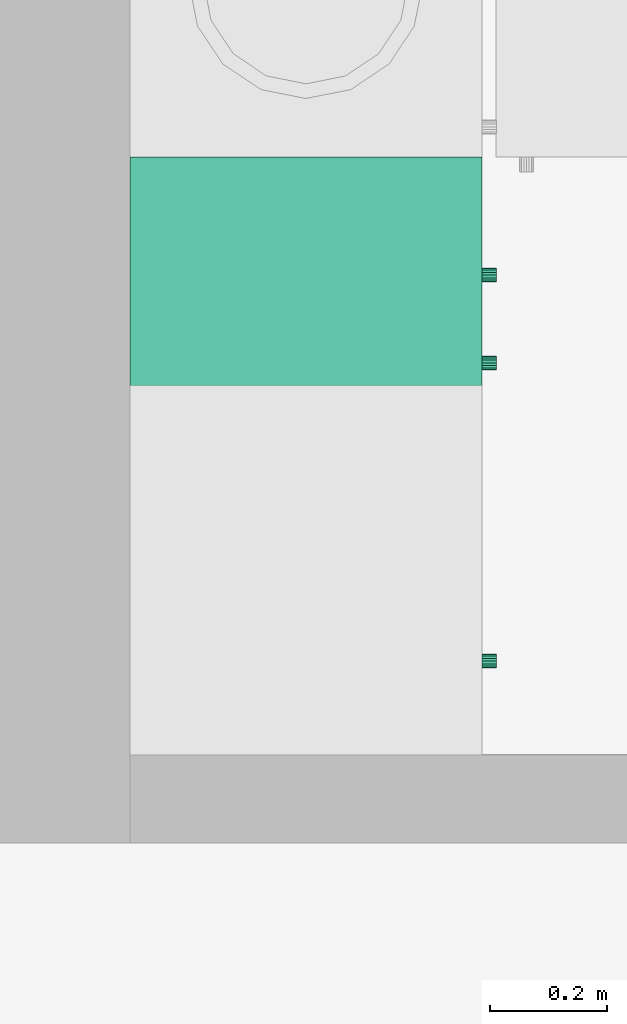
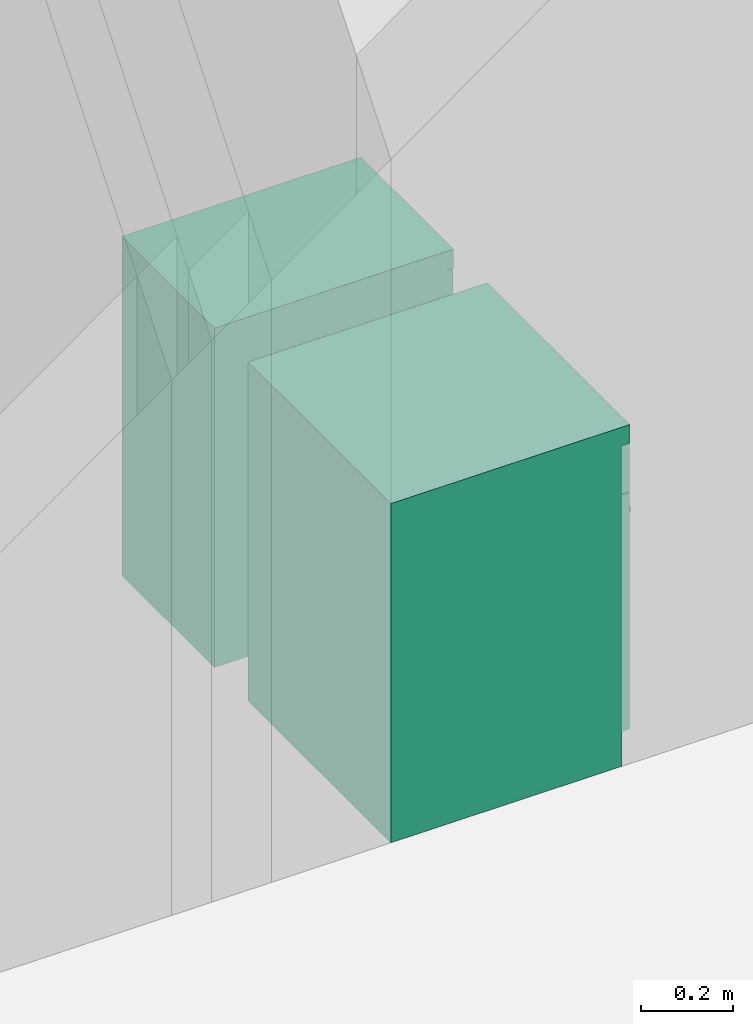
# One storey, part 46 of 165: 2 flow terminals.
"""IFC2X3 building model written with IfcOpenShell, lengths in millimetres."""

from ifc_helpers import new_model, entity, si_unit, converted_unit, money_unit, direction, frame, origin_with_axes, place, context, subcontext, project, spatial, faceted_brep, source, transform, mapped, material, material_list, type_object, element, save


model = new_model("IFC2X3")

# Units and contexts
model_context = context("Model", 3, precision=1e-05, world=origin_with_axes(), true_north=direction((0.0, 1.0)))
body_context = subcontext(model_context, "Body", "Model", "MODEL_VIEW")
ifc_project = project(units=[si_unit("LENGTHUNIT", "METRE", prefix="MILLI"), si_unit("AREAUNIT", "SQUARE_METRE"), si_unit("VOLUMEUNIT", "CUBIC_METRE"), converted_unit("PLANEANGLEUNIT", "DEGREE", entity("IfcPlaneAngleMeasure", 0.0174532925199), si_unit("PLANEANGLEUNIT", "RADIAN"), dimensions=[0, 0, 0, 0, 0, 0, 0]), si_unit("SOLIDANGLEUNIT", "STERADIAN"), money_unit("USD"), converted_unit("TIMEUNIT", "Year", entity("IfcTimeMeasure", 31556926.0), si_unit("TIMEUNIT", "SECOND"), dimensions=[0, 0, 0, 0, 0, 0, 0]), si_unit("MASSUNIT", "GRAM"), si_unit("THERMODYNAMICTEMPERATUREUNIT", "DEGREE_CELSIUS"), si_unit("LUMINOUSINTENSITYUNIT", "LUMEN")], contexts=[model_context])

# Site, building, storey
site_placement = place(None, origin_with_axes())
site = spatial("IfcSite", under=ifc_project, at=site_placement, Name="Site", CompositionType="ELEMENT")
building_placement = place(site_placement, origin_with_axes())
building = spatial("IfcBuilding", under=site, at=building_placement, Name="Building", CompositionType="ELEMENT")
storey_placement = place(building_placement, frame((0.0, 0.0, 6300.0), z_axis=(0.0, 0.0, 1.0), x_axis=(1.0, 0.0, 0.0)))
storey = spatial("IfcBuildingStorey", under=building, at=storey_placement, Name="4KORRUS", CompositionType="ELEMENT", Elevation=6300.0)

# Flow terminals
ifc_material = material(Name="Background")
ifc_material_list = material_list([ifc_material])
sanitary_terminal_type = type_object("IfcSanitaryTerminalType", Name="Cabinet Base Single Door 19", PredefinedType="SINK")
shared_shape_1 = source(origin_with_axes(), body_context, "Body", "Brep", [
    faceted_brep([(-20.0, 20.0, 710.0), (-20.0, 20.0, 730.0), (-382.248, 20.0, 730.0), (-382.248, 20.0, 710.0), (-20.0, 580.0, 710.0), (-20.0, 580.0, 730.0), (-382.248, 580.0, 730.0), (-382.248, 580.0, 710.0)], [[[0, 1, 2, 3]], [[4, 5, 1, 0]], [[1, 5, 6, 2]], [[3, 2, 6, 7]], [[0, 3, 7, 4]], [[7, 6, 5, 4]]]),
    faceted_brep([(0.0, 20.0, 0.0), (0.0, 20.0, 90.0), (-402.248, 20.0, 90.0), (-402.248, 20.0, 0.0), (0.0, 600.0, 0.0), (0.0, 600.0, 90.0), (-402.248, 600.0, 90.0), (-402.248, 600.0, 0.0)], [[[0, 1, 2, 3]], [[4, 5, 1, 0]], [[1, 5, 6, 2]], [[3, 2, 6, 7]], [[0, 3, 7, 4]], [[7, 6, 5, 4]]]),
    faceted_brep([(0.0, 20.0, 830.0), (0.0, 20.0, 850.0), (-20.0, 20.0, 850.0), (-20.0, 20.0, 830.0), (0.0, 600.0, 830.0), (0.0, 600.0, 850.0), (-20.0, 600.0, 850.0), (-382.248, 600.0, 850.0), (-402.248, 600.0, 850.0), (-402.248, 20.0, 850.0), (-382.248, 20.0, 850.0), (-382.248, 20.0, 830.0), (-402.248, 20.0, 830.0), (-402.248, 600.0, 830.0), (-382.248, 600.0, 830.0), (-20.0, 600.0, 830.0)], [[[0, 1, 2, 3]], [[4, 5, 1, 0]], [[1, 5, 6, 7, 8, 9, 10, 2]], [[3, 2, 10, 11]], [[0, 3, 11, 12, 13, 14, 15, 4]], [[15, 6, 5, 4]], [[14, 7, 6, 15]], [[13, 8, 7, 14]], [[12, 9, 8, 13]], [[11, 10, 9, 12]]]),
    faceted_brep([(0.0, 20.0, 90.0), (0.0, 20.0, 110.0), (-20.0, 20.0, 110.0), (-20.0, 20.0, 90.0), (0.0, 600.0, 90.0), (0.0, 600.0, 110.0), (-20.0, 600.0, 110.0), (-382.248, 600.0, 110.0), (-402.248, 600.0, 110.0), (-402.248, 20.0, 110.0), (-382.248, 20.0, 110.0), (-382.248, 20.0, 90.0), (-402.248, 20.0, 90.0), (-402.248, 600.0, 90.0), (-382.248, 600.0, 90.0), (-20.0, 600.0, 90.0)], [[[0, 1, 2, 3]], [[4, 5, 1, 0]], [[1, 5, 6, 7, 8, 9, 10, 2]], [[3, 2, 10, 11]], [[0, 3, 11, 12, 13, 14, 15, 4]], [[15, 6, 5, 4]], [[14, 7, 6, 15]], [[13, 8, 7, 14]], [[12, 9, 8, 13]], [[11, 10, 9, 12]]]),
    faceted_brep([(0.0, 20.0, 110.0), (0.0, 20.0, 830.0), (-20.0, 20.0, 830.0), (-20.0, 20.0, 110.0), (0.0, 600.0, 110.0), (0.0, 600.0, 830.0), (-402.248, 600.0, 830.0), (-402.248, 20.0, 830.0), (-382.248, 20.0, 830.0), (-382.248, 580.0, 830.0), (-20.0, 580.0, 830.0), (-20.0, 580.0, 110.0), (-382.248, 580.0, 110.0), (-382.248, 20.0, 110.0), (-402.248, 20.0, 110.0), (-402.248, 600.0, 110.0)], [[[0, 1, 2, 3]], [[4, 5, 1, 0]], [[1, 5, 6, 7, 8, 9, 10, 2]], [[3, 2, 10, 11]], [[0, 3, 11, 12, 13, 14, 15, 4]], [[15, 6, 5, 4]], [[14, 7, 6, 15]], [[13, 8, 7, 14]], [[12, 9, 8, 13]], [[11, 10, 9, 12]]]),
    faceted_brep([(-382.248, 20.0, 385.0), (-382.248, 20.0, 405.0), (-382.248, 580.0, 405.0), (-382.248, 580.0, 385.0), (-20.0, 20.0, 385.0), (-20.0, 20.0, 405.0), (-20.0, 580.0, 405.0), (-20.0, 580.0, 385.0)], [[[0, 1, 2, 3]], [[4, 5, 1, 0]], [[1, 5, 6, 2]], [[3, 2, 6, 7]], [[0, 3, 7, 4]], [[7, 6, 5, 4]]]),
    faceted_brep([(0.0, 0.0, 850.0), (0.0, 0.0, 900.0), (-402.248, 0.0, 900.0), (-402.248, 0.0, 850.0), (0.0, 600.0, 850.0), (0.0, 600.0, 900.0), (-402.248, 600.0, 900.0), (-402.248, 600.0, 850.0)], [[[0, 1, 2, 3]], [[4, 5, 1, 0]], [[1, 5, 6, 2]], [[3, 2, 6, 7]], [[0, 3, 7, 4]], [[7, 6, 5, 4]]]),
    faceted_brep([(-1.5, 20.0, 721.5), (-1.5, 0.0, 721.5), (-400.748, 0.0, 721.5), (-400.748, 20.0, 721.5), (-1.5, 20.0, 848.5), (-1.5, 0.0, 848.5), (-400.748, 0.0, 848.5), (-400.748, 20.0, 848.5)], [[[0, 1, 2, 3]], [[4, 5, 1, 0]], [[1, 5, 6, 2]], [[3, 2, 6, 7]], [[0, 3, 7, 4]], [[7, 6, 5, 4]]]),
    faceted_brep([(-196.532, 0.0, 773.913), (-201.124, 0.0, 773.0), (-205.716, 0.0, 773.913), (-209.609, 0.0, 776.515), (-212.211, 0.0, 780.408), (-213.124, 0.0, 785.0), (-212.211, 0.0, 789.592), (-209.609, 0.0, 793.485), (-205.716, 0.0, 796.087), (-201.124, 0.0, 797.0), (-196.532, 0.0, 796.087), (-192.639, 0.0, 793.485), (-190.038, 0.0, 789.592), (-189.124, 0.0, 785.0), (-190.038, 0.0, 780.408), (-192.639, 0.0, 776.515), (-196.532, -25.0, 773.913), (-201.124, -25.0, 773.0), (-205.716, -25.0, 773.913), (-209.609, -25.0, 776.515), (-212.211, -25.0, 780.408), (-213.124, -25.0, 785.0), (-212.211, -25.0, 789.592), (-209.609, -25.0, 793.485), (-205.716, -25.0, 796.087), (-201.124, -25.0, 797.0), (-196.532, -25.0, 796.087), (-192.639, -25.0, 793.485), (-190.038, -25.0, 789.592), (-189.124, -25.0, 785.0), (-190.038, -25.0, 780.408), (-192.639, -25.0, 776.515)], [[[0, 1, 2, 3, 4, 5, 6, 7, 8, 9, 10, 11, 12, 13, 14, 15]], [[0, 16, 17, 1]], [[1, 17, 18, 2]], [[2, 18, 19, 3]], [[3, 19, 20, 4]], [[4, 20, 21, 5]], [[5, 21, 22, 6]], [[6, 22, 23, 7]], [[7, 23, 24, 8]], [[8, 24, 25, 9]], [[9, 25, 26, 10]], [[10, 26, 27, 11]], [[11, 27, 28, 12]], [[12, 28, 29, 13]], [[13, 29, 30, 14]], [[14, 30, 31, 15]], [[15, 31, 16, 0]], [[16, 31, 30, 29, 28, 27, 26, 25, 24, 23, 22, 21, 20, 19, 18, 17]]]),
    faceted_brep([(-1.5, 20.0, 91.5), (-1.5, 0.0, 91.5), (-400.748, 0.0, 91.5), (-400.748, 20.0, 91.5), (-1.5, 20.0, 718.5), (-1.5, 0.0, 718.5), (-400.748, 0.0, 718.5), (-400.748, 20.0, 718.5)], [[[0, 1, 2, 3]], [[4, 5, 1, 0]], [[1, 5, 6, 2]], [[3, 2, 6, 7]], [[0, 3, 7, 4]], [[7, 6, 5, 4]]]),
    faceted_brep([(-361.835, 0.0, 636.908), (-362.748, 0.0, 641.5), (-361.835, 0.0, 646.092), (-359.234, 0.0, 649.985), (-355.341, 0.0, 652.587), (-350.748, 0.0, 653.5), (-346.156, 0.0, 652.587), (-342.263, 0.0, 649.985), (-339.662, 0.0, 646.092), (-338.748, 0.0, 641.5), (-339.662, 0.0, 636.908), (-342.263, 0.0, 633.015), (-346.156, 0.0, 630.413), (-350.748, 0.0, 629.5), (-355.341, 0.0, 630.413), (-359.234, 0.0, 633.015), (-361.835, -25.0, 636.908), (-362.748, -25.0, 641.5), (-361.835, -25.0, 646.092), (-359.234, -25.0, 649.985), (-355.341, -25.0, 652.587), (-350.748, -25.0, 653.5), (-346.156, -25.0, 652.587), (-342.263, -25.0, 649.985), (-339.662, -25.0, 646.092), (-338.748, -25.0, 641.5), (-339.662, -25.0, 636.908), (-342.263, -25.0, 633.015), (-346.156, -25.0, 630.413), (-350.748, -25.0, 629.5), (-355.341, -25.0, 630.413), (-359.234, -25.0, 633.015)], [[[0, 1, 2, 3, 4, 5, 6, 7, 8, 9, 10, 11, 12, 13, 14, 15]], [[0, 16, 17, 1]], [[1, 17, 18, 2]], [[2, 18, 19, 3]], [[3, 19, 20, 4]], [[4, 20, 21, 5]], [[5, 21, 22, 6]], [[6, 22, 23, 7]], [[7, 23, 24, 8]], [[8, 24, 25, 9]], [[9, 25, 26, 10]], [[10, 26, 27, 11]], [[11, 27, 28, 12]], [[12, 28, 29, 13]], [[13, 29, 30, 14]], [[14, 30, 31, 15]], [[15, 31, 16, 0]], [[16, 31, 30, 29, 28, 27, 26, 25, 24, 23, 22, 21, 20, 19, 18, 17]]]),
])
flow_terminal_1_placement = place(storey_placement, frame((6609.70329669, -9967.37850445, 0.0), z_axis=(0.0, 0.0, 1.0), x_axis=(0.0, 1.0, 0.0)))
element("IfcFlowTerminal", 1, at=flow_terminal_1_placement, inside=storey, type_object=sanitary_terminal_type, material=ifc_material_list, Name="FU - 007", context=body_context, shape_type="MappedRepresentation", body=[
    mapped(shared_shape_1, transform((0.0, 0.0, 0.0))),
])
shared_shape_2 = source(origin_with_axes(), body_context, "Body", "Brep", [
    faceted_brep([(-20.0, 20.0, 710.0), (-20.0, 20.0, 730.0), (-599.796, 20.0, 730.0), (-599.796, 20.0, 710.0), (-20.0, 580.0, 710.0), (-20.0, 580.0, 730.0), (-599.796, 580.0, 730.0), (-599.796, 580.0, 710.0)], [[[0, 1, 2, 3]], [[4, 5, 1, 0]], [[1, 5, 6, 2]], [[3, 2, 6, 7]], [[0, 3, 7, 4]], [[7, 6, 5, 4]]]),
    faceted_brep([(0.0, 20.0, 0.0), (0.0, 20.0, 90.0), (-619.796, 20.0, 90.0), (-619.796, 20.0, 0.0), (0.0, 600.0, 0.0), (0.0, 600.0, 90.0), (-619.796, 600.0, 90.0), (-619.796, 600.0, 0.0)], [[[0, 1, 2, 3]], [[4, 5, 1, 0]], [[1, 5, 6, 2]], [[3, 2, 6, 7]], [[0, 3, 7, 4]], [[7, 6, 5, 4]]]),
    faceted_brep([(0.0, 20.0, 830.0), (0.0, 20.0, 850.0), (-20.0, 20.0, 850.0), (-20.0, 20.0, 830.0), (0.0, 600.0, 830.0), (0.0, 600.0, 850.0), (-20.0, 600.0, 850.0), (-599.796, 600.0, 850.0), (-619.796, 600.0, 850.0), (-619.796, 20.0, 850.0), (-599.796, 20.0, 850.0), (-599.796, 20.0, 830.0), (-619.796, 20.0, 830.0), (-619.796, 600.0, 830.0), (-599.796, 600.0, 830.0), (-20.0, 600.0, 830.0)], [[[0, 1, 2, 3]], [[4, 5, 1, 0]], [[1, 5, 6, 7, 8, 9, 10, 2]], [[3, 2, 10, 11]], [[0, 3, 11, 12, 13, 14, 15, 4]], [[15, 6, 5, 4]], [[14, 7, 6, 15]], [[13, 8, 7, 14]], [[12, 9, 8, 13]], [[11, 10, 9, 12]]]),
    faceted_brep([(0.0, 20.0, 90.0), (0.0, 20.0, 110.0), (-20.0, 20.0, 110.0), (-20.0, 20.0, 90.0), (0.0, 600.0, 90.0), (0.0, 600.0, 110.0), (-20.0, 600.0, 110.0), (-599.796, 600.0, 110.0), (-619.796, 600.0, 110.0), (-619.796, 20.0, 110.0), (-599.796, 20.0, 110.0), (-599.796, 20.0, 90.0), (-619.796, 20.0, 90.0), (-619.796, 600.0, 90.0), (-599.796, 600.0, 90.0), (-20.0, 600.0, 90.0)], [[[0, 1, 2, 3]], [[4, 5, 1, 0]], [[1, 5, 6, 7, 8, 9, 10, 2]], [[3, 2, 10, 11]], [[0, 3, 11, 12, 13, 14, 15, 4]], [[15, 6, 5, 4]], [[14, 7, 6, 15]], [[13, 8, 7, 14]], [[12, 9, 8, 13]], [[11, 10, 9, 12]]]),
    faceted_brep([(0.0, 20.0, 110.0), (0.0, 20.0, 830.0), (-20.0, 20.0, 830.0), (-20.0, 20.0, 110.0), (0.0, 600.0, 110.0), (0.0, 600.0, 830.0), (-619.796, 600.0, 830.0), (-619.796, 20.0, 830.0), (-599.796, 20.0, 830.0), (-599.796, 580.0, 830.0), (-20.0, 580.0, 830.0), (-20.0, 580.0, 110.0), (-599.796, 580.0, 110.0), (-599.796, 20.0, 110.0), (-619.796, 20.0, 110.0), (-619.796, 600.0, 110.0)], [[[0, 1, 2, 3]], [[4, 5, 1, 0]], [[1, 5, 6, 7, 8, 9, 10, 2]], [[3, 2, 10, 11]], [[0, 3, 11, 12, 13, 14, 15, 4]], [[15, 6, 5, 4]], [[14, 7, 6, 15]], [[13, 8, 7, 14]], [[12, 9, 8, 13]], [[11, 10, 9, 12]]]),
    faceted_brep([(-599.796, 20.0, 385.0), (-599.796, 20.0, 405.0), (-599.796, 580.0, 405.0), (-599.796, 580.0, 385.0), (-20.0, 20.0, 385.0), (-20.0, 20.0, 405.0), (-20.0, 580.0, 405.0), (-20.0, 580.0, 385.0)], [[[0, 1, 2, 3]], [[4, 5, 1, 0]], [[1, 5, 6, 2]], [[3, 2, 6, 7]], [[0, 3, 7, 4]], [[7, 6, 5, 4]]]),
    faceted_brep([(0.0, 0.0, 850.0), (0.0, 0.0, 900.0), (-619.796, 0.0, 900.0), (-619.796, 0.0, 850.0), (0.0, 600.0, 850.0), (0.0, 600.0, 900.0), (-619.796, 600.0, 900.0), (-619.796, 600.0, 850.0)], [[[0, 1, 2, 3]], [[4, 5, 1, 0]], [[1, 5, 6, 2]], [[3, 2, 6, 7]], [[0, 3, 7, 4]], [[7, 6, 5, 4]]]),
    faceted_brep([(-1.5, 20.0, 721.5), (-1.5, 0.0, 721.5), (-618.296, 0.0, 721.5), (-618.296, 20.0, 721.5), (-1.5, 20.0, 848.5), (-1.5, 0.0, 848.5), (-618.296, 0.0, 848.5), (-618.296, 20.0, 848.5)], [[[0, 1, 2, 3]], [[4, 5, 1, 0]], [[1, 5, 6, 2]], [[3, 2, 6, 7]], [[0, 3, 7, 4]], [[7, 6, 5, 4]]]),
    faceted_brep([(-305.306, 0.0, 773.913), (-309.898, 0.0, 773.0), (-314.49, 0.0, 773.913), (-318.383, 0.0, 776.515), (-320.984, 0.0, 780.408), (-321.898, 0.0, 785.0), (-320.984, 0.0, 789.592), (-318.383, 0.0, 793.485), (-314.49, 0.0, 796.087), (-309.898, 0.0, 797.0), (-305.306, 0.0, 796.087), (-301.413, 0.0, 793.485), (-298.811, 0.0, 789.592), (-297.898, 0.0, 785.0), (-298.811, 0.0, 780.408), (-301.413, 0.0, 776.515), (-305.306, -25.0, 773.913), (-309.898, -25.0, 773.0), (-314.49, -25.0, 773.913), (-318.383, -25.0, 776.515), (-320.984, -25.0, 780.408), (-321.898, -25.0, 785.0), (-320.984, -25.0, 789.592), (-318.383, -25.0, 793.485), (-314.49, -25.0, 796.087), (-309.898, -25.0, 797.0), (-305.306, -25.0, 796.087), (-301.413, -25.0, 793.485), (-298.811, -25.0, 789.592), (-297.898, -25.0, 785.0), (-298.811, -25.0, 780.408), (-301.413, -25.0, 776.515)], [[[0, 1, 2, 3, 4, 5, 6, 7, 8, 9, 10, 11, 12, 13, 14, 15]], [[0, 16, 17, 1]], [[1, 17, 18, 2]], [[2, 18, 19, 3]], [[3, 19, 20, 4]], [[4, 20, 21, 5]], [[5, 21, 22, 6]], [[6, 22, 23, 7]], [[7, 23, 24, 8]], [[8, 24, 25, 9]], [[9, 25, 26, 10]], [[10, 26, 27, 11]], [[11, 27, 28, 12]], [[12, 28, 29, 13]], [[13, 29, 30, 14]], [[14, 30, 31, 15]], [[15, 31, 16, 0]], [[16, 31, 30, 29, 28, 27, 26, 25, 24, 23, 22, 21, 20, 19, 18, 17]]]),
    faceted_brep([(-1.5, 20.0, 91.5), (-1.5, 0.0, 91.5), (-618.296, 0.0, 91.5), (-618.296, 20.0, 91.5), (-1.5, 20.0, 718.5), (-1.5, 0.0, 718.5), (-618.296, 0.0, 718.5), (-618.296, 20.0, 718.5)], [[[0, 1, 2, 3]], [[4, 5, 1, 0]], [[1, 5, 6, 2]], [[3, 2, 6, 7]], [[0, 3, 7, 4]], [[7, 6, 5, 4]]]),
    faceted_brep([(-579.382, 0.0, 636.908), (-580.296, 0.0, 641.5), (-579.382, 0.0, 646.092), (-576.781, 0.0, 649.985), (-572.888, 0.0, 652.587), (-568.296, 0.0, 653.5), (-563.704, 0.0, 652.587), (-559.811, 0.0, 649.985), (-557.209, 0.0, 646.092), (-556.296, 0.0, 641.5), (-557.209, 0.0, 636.908), (-559.811, 0.0, 633.015), (-563.704, 0.0, 630.413), (-568.296, 0.0, 629.5), (-572.888, 0.0, 630.413), (-576.781, 0.0, 633.015), (-579.382, -25.0, 636.908), (-580.296, -25.0, 641.5), (-579.382, -25.0, 646.092), (-576.781, -25.0, 649.985), (-572.888, -25.0, 652.587), (-568.296, -25.0, 653.5), (-563.704, -25.0, 652.587), (-559.811, -25.0, 649.985), (-557.209, -25.0, 646.092), (-556.296, -25.0, 641.5), (-557.209, -25.0, 636.908), (-559.811, -25.0, 633.015), (-563.704, -25.0, 630.413), (-568.296, -25.0, 629.5), (-572.888, -25.0, 630.413), (-576.781, -25.0, 633.015)], [[[0, 1, 2, 3, 4, 5, 6, 7, 8, 9, 10, 11, 12, 13, 14, 15]], [[0, 16, 17, 1]], [[1, 17, 18, 2]], [[2, 18, 19, 3]], [[3, 19, 20, 4]], [[4, 20, 21, 5]], [[5, 21, 22, 6]], [[6, 22, 23, 7]], [[7, 23, 24, 8]], [[8, 24, 25, 9]], [[9, 25, 26, 10]], [[10, 26, 27, 11]], [[11, 27, 28, 12]], [[12, 28, 29, 13]], [[13, 29, 30, 14]], [[14, 30, 31, 15]], [[15, 31, 16, 0]], [[16, 31, 30, 29, 28, 27, 26, 25, 24, 23, 22, 21, 20, 19, 18, 17]]]),
])
flow_terminal_2_placement = place(storey_placement, frame((6609.70329669, -10516.8082647, 0.0), z_axis=(0.0, 0.0, 1.0), x_axis=(0.0, 1.0, 0.0)))
element("IfcFlowTerminal", 2, at=flow_terminal_2_placement, inside=storey, type_object=sanitary_terminal_type, material=ifc_material_list, Name="FU - 007", context=body_context, shape_type="MappedRepresentation", body=[
    mapped(shared_shape_2, transform((0.0, 0.0, 0.0))),
])

save(model, "model.ifc")
